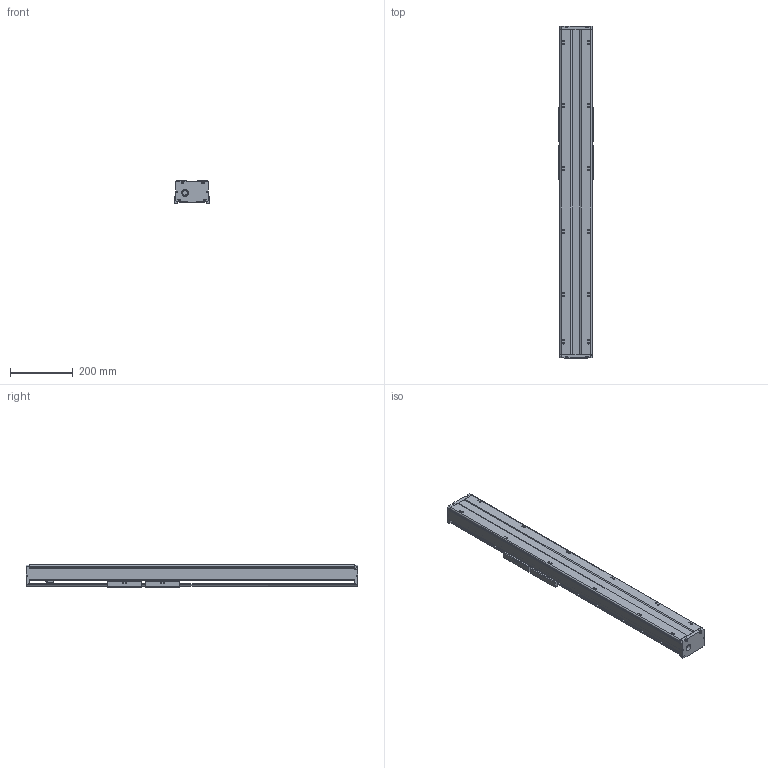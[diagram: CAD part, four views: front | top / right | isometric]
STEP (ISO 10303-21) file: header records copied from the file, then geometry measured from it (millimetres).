
FILE_DESCRIPTION((''),'2;1');
FILE_NAME('HZMOTION_TKA100-800A1F0_ASM','2019-09-16T',('ASUS'),(''),'PRO/ENGINEER BY PARAMETRIC TECHNOLOGY CORPORATION, 2010280','PRO/ENGINEER BY PARAMETRIC TECHNOLOGY CORPORATION, 2010280','');
FILE_SCHEMA(('CONFIG_CONTROL_DESIGN'));
Length unit declared in the file: millimetre
Products named in the file (4): 200-01; 200-02; TKA100-800A1F0_ASM1_STP_ASM; HZMOTION_TKA100-800A1F0_ASM
Assembly tree (4 placements, depth 3):
  HZMOTION_TKA100-800A1F0_ASM
    TKA100-800A1F0_ASM1_STP_ASM
      200-01
      200-02  x2
Bounding box: 110 x 1054 x 71 mm (x, y, z)
Volume: 440309.5 mm3; surface area: 782414.5 mm2
Topology: 8 solids, 10 shells, 1047 faces, 2951 edges, 1909 vertices
Faces by surface type: cylinder 487, plane 293, cone 204, torus 37, bspline 26
Entity records: 32803 total; most frequent: CARTESIAN_POINT 9452, DIRECTION 5012, ORIENTED_EDGE 4847, EDGE_CURVE 2429, AXIS2_PLACEMENT_3D 1984, VERTEX_POINT 1636, CIRCLE 1115, EDGE_LOOP 1046
